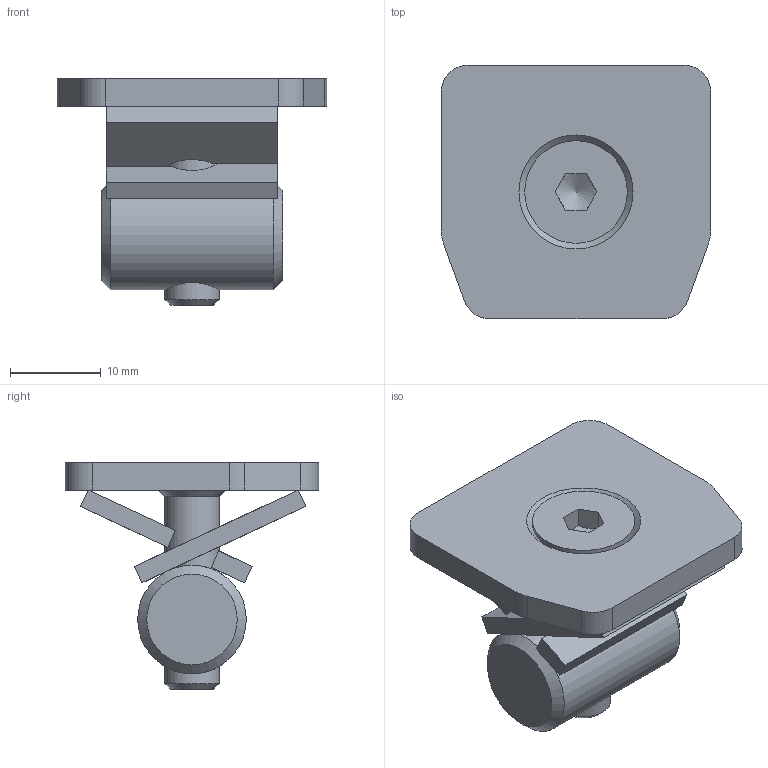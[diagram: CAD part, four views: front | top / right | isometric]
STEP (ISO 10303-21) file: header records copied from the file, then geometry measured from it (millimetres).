
FILE_DESCRIPTION(/* description */ ('Brennteil'),/* implementation_level */ '2;1');
FILE_NAME(/* name */ 'Q:\sge-ma\Produktmanagement-STB\STB\Workspace\TraceParts\Laufrohrabschluss\010337050.stp',/* time_stamp */ '2018-03-05T08:18:42+01:00',/* author */ ('avschreier'),/* organization */ (''),/* preprocessor_version */ 'ST-DEVELOPER v16.1',/* originating_system */ 'Autodesk Inventor 2016',/* authorisation */ '');
FILE_SCHEMA (('CONFIG_CONTROL_DESIGN'));
Length unit declared in the file: millimetre
Products named in the file (5): 337000266; 337000267; 337000265; DIN_EN_ISO_10642-M6x25_en; 010337050
Assembly tree (5 placements, depth 2):
  010337050
    337000266  x2
    337000267
    337000265
    DIN_EN_ISO_10642-M6x25_en
Bounding box: 29.8 x 28 x 25 mm (x, y, z)
Volume: 6138.4 mm3; surface area: 5319.6 mm2
Topology: 5 solids, 5 shells, 54 faces, 129 edges, 84 vertices
Faces by surface type: plane 36, cylinder 10, cone 6, bspline 2
Full cylindrical faces by diameter (mm): 6 x2, 11.34 x1, 12 x1
Entity records: 1393 total; most frequent: CARTESIAN_POINT 301, DIRECTION 214, ORIENTED_EDGE 182, EDGE_CURVE 91, AXIS2_PLACEMENT_3D 78, VERTEX_POINT 65, EDGE_LOOP 58, LINE 58
